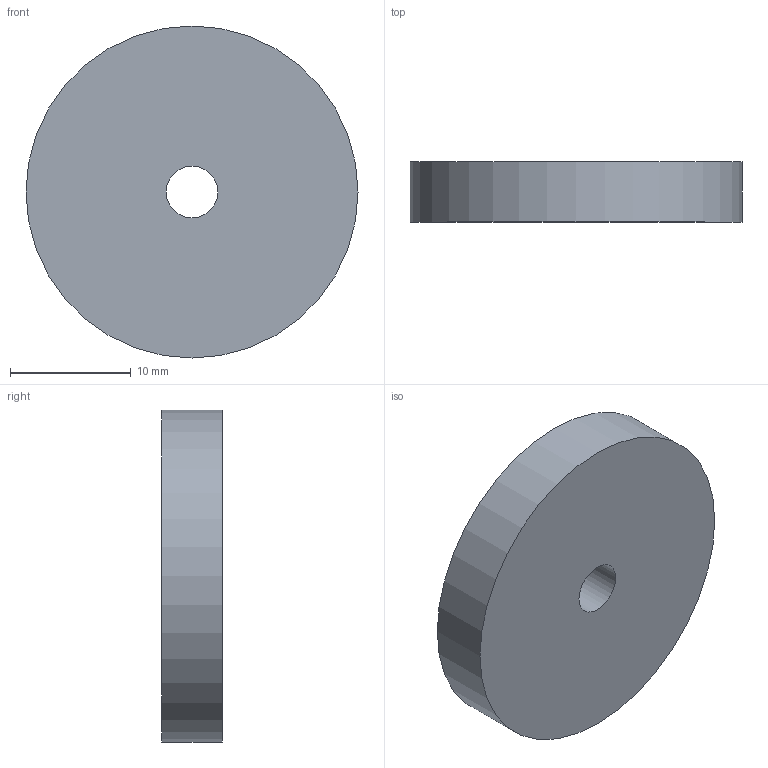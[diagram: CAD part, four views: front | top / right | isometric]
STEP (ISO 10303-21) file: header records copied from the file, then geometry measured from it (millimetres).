
FILE_DESCRIPTION(/* description */ (''),/* implementation_level */ '2;1');
FILE_NAME(/* name */ 'InnerCircle.step',/* time_stamp */ '2024-08-31T16:33:25-04:00',/* author */ (''),/* organization */ (''),/* preprocessor_version */ 'ST-DEVELOPER v20',/* originating_system */ 'Autodesk Translation Framework v13.14.0.145',/* authorisation */ '');
FILE_SCHEMA (('AUTOMOTIVE_DESIGN { 1 0 10303 214 3 1 1 }'));
Length unit declared in the file: millimetre
Products named in the file (1): InnerCircle 1
Bounding box: 27.5 x 5 x 27.5 mm (x, y, z)
Volume: 2865.1 mm3; surface area: 1647.6 mm2
Topology: 1 solids, 1 shells, 5 faces, 8 edges, 5 vertices
Faces by surface type: plane 2, cylinder 2, cone 1
Full cylindrical faces by diameter (mm): 4.305 x1, 27.5 x1
Entity records: 156 total; most frequent: DIRECTION 25, CARTESIAN_POINT 19, ORIENTED_EDGE 16, AXIS2_PLACEMENT_3D 11, EDGE_CURVE 8, EDGE_LOOP 7, FACE_OUTER_BOUND 5, CIRCLE 5
